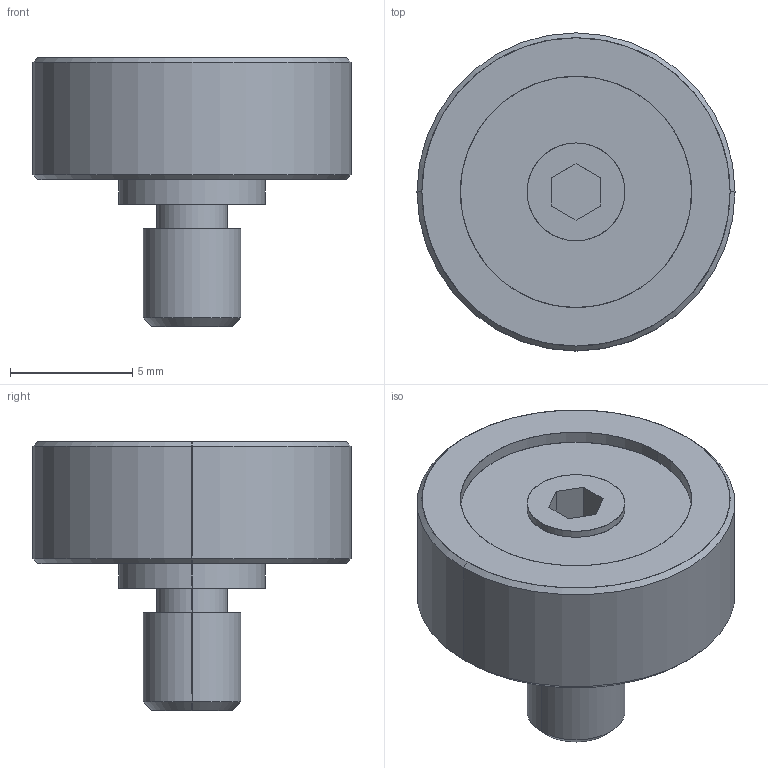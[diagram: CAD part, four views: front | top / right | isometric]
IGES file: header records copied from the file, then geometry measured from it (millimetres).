
Start section: SolidWorks IGES file using analytic representation for surfaces
Global section: file name: X:\11_SW2020-Inv2020\00_全2021-11新製品まで\g\GRL13M4P-F-SUS\grl13m4p-f-sus.IGS; native system: SolidWorks 2020; preprocessor: SolidWorks 2020; author: ImaoCorp; date: 211026.094443; units: millimetre
Bounding box: 13 x 13 x 11 mm (x, y, z)
Surface area: 601.4 mm2 (no closed solid volume)
Topology: 0 solids, 0 shells, 35 faces, 564 edges, 564 vertices
Faces by surface type: revolution 20, bspline 15
